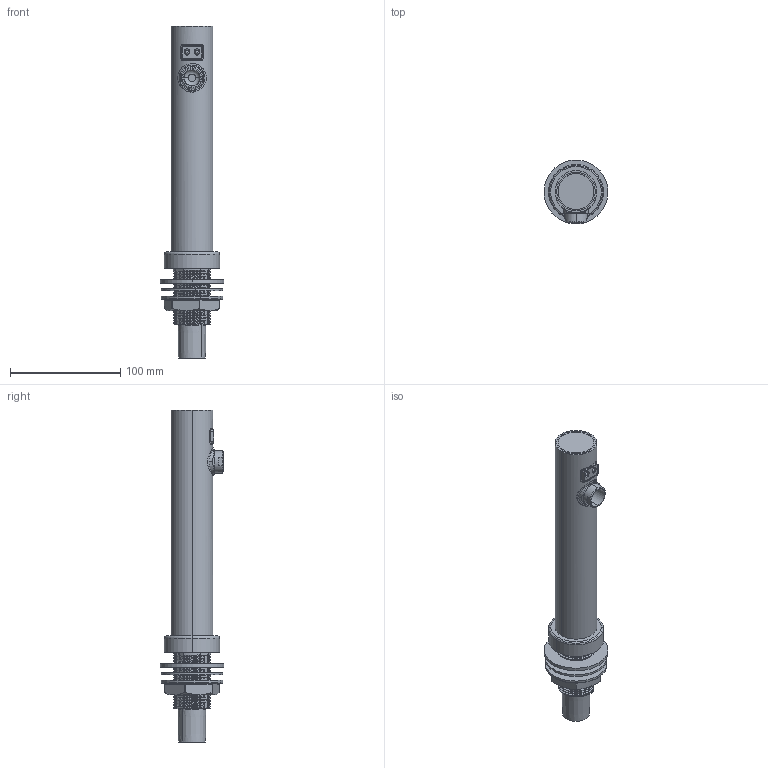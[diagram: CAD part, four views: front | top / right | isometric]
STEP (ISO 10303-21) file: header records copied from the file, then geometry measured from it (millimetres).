
FILE_DESCRIPTION (( 'STEP AP214' ), '1' );
FILE_NAME ('1HK0000-35-1002_EcoTap FA 02_水龍頭組合圖_201809.STEP', '2018-09-12T05:39:37', ( 'USER' ), ( '' ), 'SwSTEP 2.0', 'SolidWorks 2011', '' );
FILE_SCHEMA (( 'AUTOMOTIVE_DESIGN' ));
Length unit declared in the file: millimetre
Products named in the file (15): Tap牆面式出水管_38D-220-A2_Default; EcoTap出風管導光塞頭飾板_Default; EcoTap細排出風口LED_Default; Tap出水口座上蓋_A1; EcoTap出風管導光塞頭_Default; M20水龍頭起泡頭銅件; EcoTap細排出風口Sensor_Default; A0135-0004_EcoTap FA_出水口座201807; Tap出水口迫緊_A2_Default; 進風管固定螺帽_Default; EcoTap墊片; EcoTap華司; 進風管華司; 檯面式EcoTap出風管座; 1HK0000-35-1002_EcoTap FA 02_水龍頭組合圖_201809
Assembly tree (14 placements, depth 2):
  1HK0000-35-1002_EcoTap FA 02_水龍頭組合圖_201809
    EcoTap細排出風口LED_Default
    EcoTap墊片
    Tap出水口座上蓋_A1
    EcoTap出風管導光塞頭_Default
    EcoTap細排出風口Sensor_Default
    檯面式EcoTap出風管座
    EcoTap出風管導光塞頭飾板_Default
    EcoTap華司
    A0135-0004_EcoTap FA_出水口座201807
    M20水龍頭起泡頭銅件
    進風管華司
    Tap牆面式出水管_38D-220-A2_Default
    Tap出水口迫緊_A2_Default
    進風管固定螺帽_Default
Bounding box: 57.99 x 57.99 x 301.2 mm (x, y, z)
Volume: 145246.8 mm3; surface area: 126737.8 mm2
Topology: 15 solids, 15 shells, 1427 faces, 3866 edges, 2538 vertices
Faces by surface type: plane 608, cylinder 494, cone 189, bspline 92, torus 40, sphere 4
Entity records: 60462 total; most frequent: CARTESIAN_POINT 26889, ORIENTED_EDGE 7716, DIRECTION 5781, EDGE_CURVE 3858, VERTEX_POINT 2534, AXIS2_PLACEMENT_3D 2028, LINE 1725, VECTOR 1725
